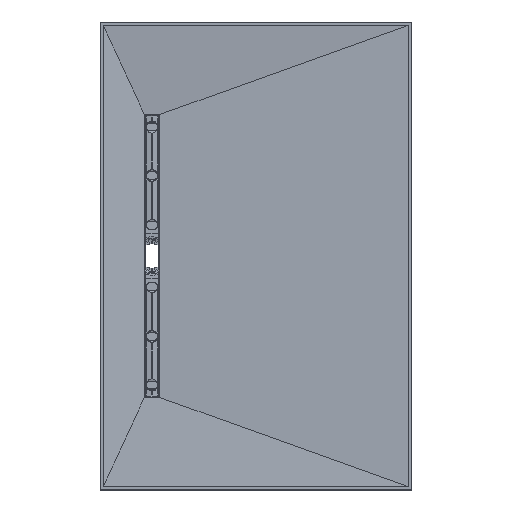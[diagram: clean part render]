
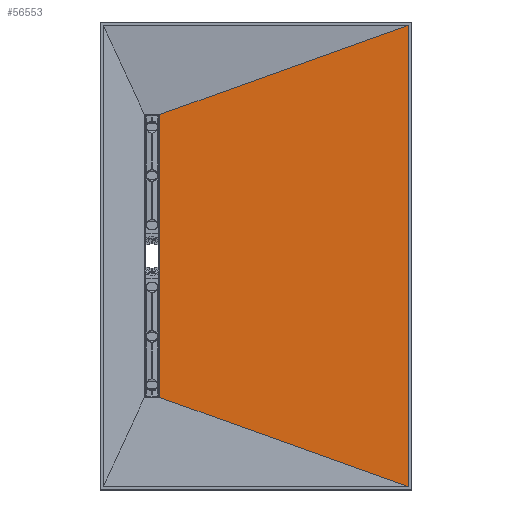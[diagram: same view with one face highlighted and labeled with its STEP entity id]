
A CAD part, top view. The second image highlights one B-rep face of the part: STEP entity #56553.
In plain terms, the highlighted planar face has unit normal (-0.026, 0, 1).
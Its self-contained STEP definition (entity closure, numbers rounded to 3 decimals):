
#6681=PLANE('',#60463);
#7413=FACE_OUTER_BOUND('',#11056,.T.);
#11056=EDGE_LOOP('',(#38878,#38879,#38880,#38881,#38882,#38883,#38884,#38885));
#17763=LINE('',#82478,#21049);
#17767=LINE('',#82490,#21053);
#17775=LINE('',#82505,#21061);
#17777=LINE('',#82514,#21063);
#17781=LINE('',#82527,#21067);
#17840=LINE('',#82781,#21126);
#21049=VECTOR('',#66542,10.);
#21053=VECTOR('',#66554,10.);
#21061=VECTOR('',#66566,10.);
#21063=VECTOR('',#66576,10.);
#21067=VECTOR('',#66590,10.);
#21126=VECTOR('',#66813,10.);
#24334=ELLIPSE('',#60208,6.002,6.);
#24335=ELLIPSE('',#60214,6.002,6.);
#24932=VERTEX_POINT('',#82475);
#24933=VERTEX_POINT('',#82477);
#24935=VERTEX_POINT('',#82483);
#24937=VERTEX_POINT('',#82489);
#24942=VERTEX_POINT('',#82503);
#24943=VERTEX_POINT('',#82507);
#24945=VERTEX_POINT('',#82513);
#24949=VERTEX_POINT('',#82526);
#29789=EDGE_CURVE('',#24933,#24932,#17763,.F.);
#29792=EDGE_CURVE('',#24933,#24935,#24334,.T.);
#29795=EDGE_CURVE('',#24937,#24935,#17767,.F.);
#29803=EDGE_CURVE('',#24942,#24932,#17775,.T.);
#29804=EDGE_CURVE('',#24937,#24943,#24335,.T.);
#29807=EDGE_CURVE('',#24943,#24945,#17777,.T.);
#29814=EDGE_CURVE('',#24949,#24945,#17781,.T.);
#29941=EDGE_CURVE('',#24949,#24942,#17840,.T.);
#38878=ORIENTED_EDGE('',*,*,#29795,.T.);
#38879=ORIENTED_EDGE('',*,*,#29792,.F.);
#38880=ORIENTED_EDGE('',*,*,#29789,.T.);
#38881=ORIENTED_EDGE('',*,*,#29803,.F.);
#38882=ORIENTED_EDGE('',*,*,#29941,.F.);
#38883=ORIENTED_EDGE('',*,*,#29814,.T.);
#38884=ORIENTED_EDGE('',*,*,#29807,.F.);
#38885=ORIENTED_EDGE('',*,*,#29804,.F.);
#56553=ADVANCED_FACE('',(#7413),#6681,.F.);
#60208=AXIS2_PLACEMENT_3D('',#82484,#66547,#66548);
#60214=AXIS2_PLACEMENT_3D('',#82508,#66569,#66570);
#60463=AXIS2_PLACEMENT_3D('',#83178,#67269,#67270);
#66542=DIRECTION('',(-1.,0.,-0.026));
#66547=DIRECTION('center_axis',(-0.026,0.,
1.));
#66548=DIRECTION('ref_axis',(1.,0.,0.026));
#66554=DIRECTION('',(0.,1.,0.));
#66566=DIRECTION('',(-0.941,0.337,-0.024));
#66569=DIRECTION('center_axis',(-0.026,0.,
1.));
#66570=DIRECTION('ref_axis',(1.,0.,0.026));
#66576=DIRECTION('',(1.,0.,0.026));
#66590=DIRECTION('',(-0.941,-0.337,-0.024));
#66813=DIRECTION('',(0.,-1.,0.));
#67269=DIRECTION('center_axis',(0.026,0.,
-1.));
#67270=DIRECTION('ref_axis',(-1.,0.,-0.026));
#82475=CARTESIAN_POINT('',(-995.292,371.4,-24.986));
#82477=CARTESIAN_POINT('',(-1001.5,371.4,-25.145));
#82478=CARTESIAN_POINT('',(-509.275,371.4,-12.5));
#82483=CARTESIAN_POINT('',(-995.5,377.4,-24.991));
#82484=CARTESIAN_POINT('Origin',(-1001.5,377.4,-25.145));
#82489=CARTESIAN_POINT('',(-995.5,1471.4,-24.991));
#82490=CARTESIAN_POINT('',(-995.5,1651.65,-24.991));
#82503=CARTESIAN_POINT('',(-22.7,22.7,0.));
#82505=CARTESIAN_POINT('',(-308.994,125.344,-7.355));
#82507=CARTESIAN_POINT('',(-1001.5,1477.4,-25.145));
#82508=CARTESIAN_POINT('Origin',(-1001.5,1471.4,-25.145));
#82513=CARTESIAN_POINT('',(-995.292,1477.4,-24.986));
#82514=CARTESIAN_POINT('',(-539.405,1477.4,-13.274));
#82526=CARTESIAN_POINT('',(-22.7,1826.1,0.));
#82527=CARTESIAN_POINT('',(-551.304,1636.582,-13.58));
#82781=CARTESIAN_POINT('',(-22.7,1375.25,0.));
#83178=CARTESIAN_POINT('Origin',(-22.7,1826.1,0.));
